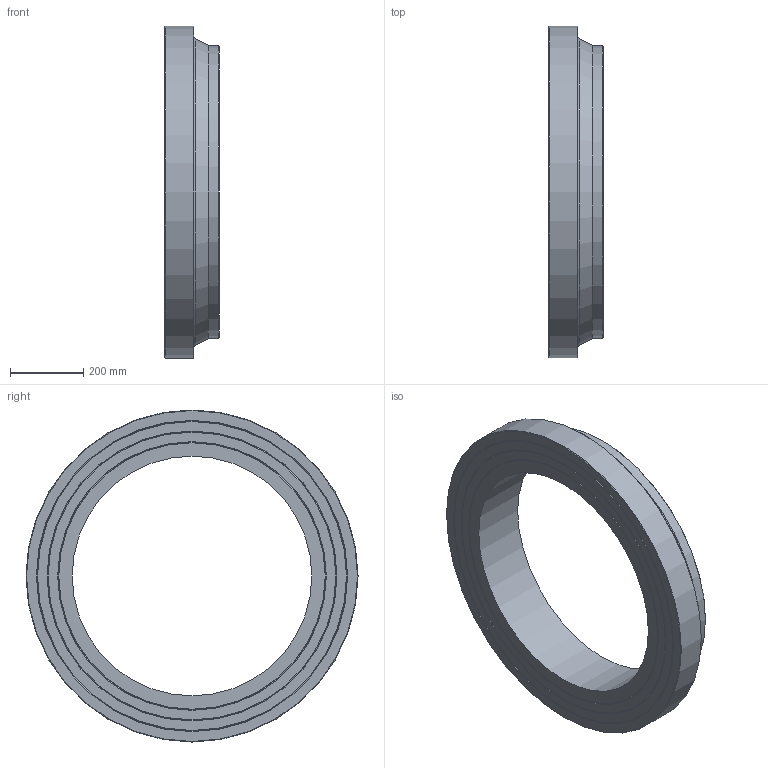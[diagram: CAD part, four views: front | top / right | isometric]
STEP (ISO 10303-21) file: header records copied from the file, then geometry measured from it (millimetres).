
FILE_DESCRIPTION(/* description */ ('Unknown'),/* implementation_level */ '2;1');
FILE_NAME(/* name */ 'CCP800C',/* time_stamp */ '2022-04-04T15:37:11+02:00',/* author */ ('Unknown'),/* organization */ ('Unknown'),/* preprocessor_version */ 'ST-DEVELOPER v18.1',/* originating_system */ 'Solid Edge',/* authorisation */ 'Unknown');
FILE_SCHEMA (('AUTOMOTIVE_DESIGN {1 0 10303 214 3 1 1}'));
Length unit declared in the file: millimetre
Products named in the file (1): CCP800C
Bounding box: 150 x 906 x 906 mm (x, y, z)
Volume: 37316201.3 mm3; surface area: 1285794.8 mm2
Topology: 1 solids, 1 shells, 20 faces, 35 edges, 21 vertices
Faces by surface type: cone 10, plane 6, cylinder 3, torus 1
Full cylindrical faces by diameter (mm): 654.4 x1, 800 x1, 906 x1
Entity records: 438 total; most frequent: DIRECTION 82, CARTESIAN_POINT 61, AXIS2_PLACEMENT_3D 41, ORIENTED_EDGE 40, EDGE_LOOP 40, FACE_BOUND 40, EDGE_CURVE 20, VERTEX_POINT 20
